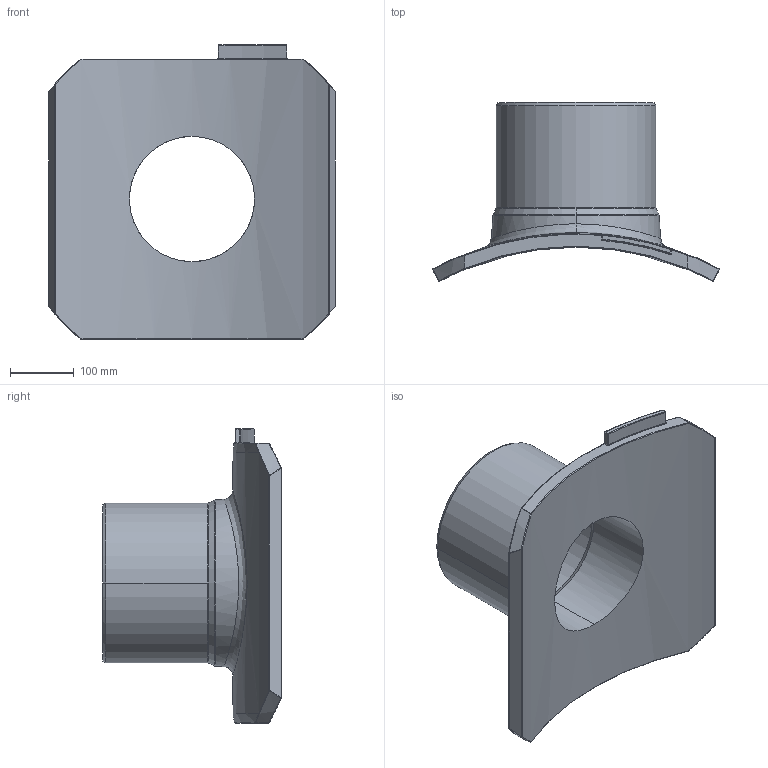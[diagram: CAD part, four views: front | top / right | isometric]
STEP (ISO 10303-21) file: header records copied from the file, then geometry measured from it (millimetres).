
FILE_DESCRIPTION((''),'2;1');
FILE_NAME('SA-UNI_D900_250_01','2024-07-01T11:36:50',('mikulicp'),(''),'CREO PARAMETRIC BY PTC INC, 2022124','CREO PARAMETRIC BY PTC INC, 2022124','');
FILE_SCHEMA(('AP242_MANAGED_MODEL_BASED_3D_ENGINEERING_MIM_LF { 1 0 10303 442 1 1 4 }'));
Length unit declared in the file: millimetre
Products named in the file (2): SA-UNI_D900_250_01; PE100
Bounding box: 448.18 x 279.78 x 460 mm (x, y, z)
Volume: 7534671.7 mm3; surface area: 673835.5 mm2
Topology: 1 solids, 1 shells, 239 faces, 575 edges, 354 vertices
Faces by surface type: bspline 74, plane 66, cylinder 49, sphere 22, torus 16, cone 12
Entity records: 14907 total; most frequent: CARTESIAN_POINT 6839, ORIENTED_EDGE 1150, DIRECTION 884, PRESENTATION_STYLE_ASSIGNMENT 587, STYLED_ITEM 576, CURVE_STYLE 575, EDGE_CURVE 575, VERTEX_POINT 354
